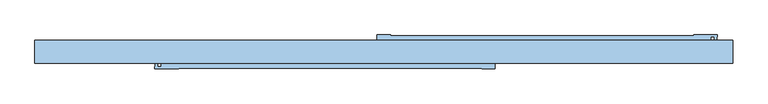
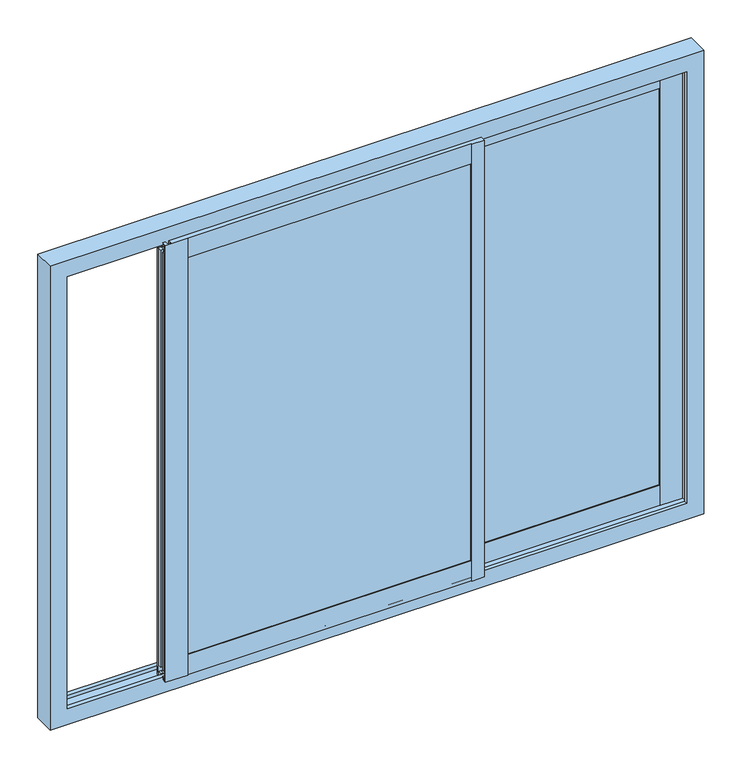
"""IFC4 building model written with IfcOpenShell, lengths in millimetres: window geometry, Domal_Slide TB65_Win_1 Vent Opening + Fix_Family : Domal_Slide TB65_Win_1 Vent Opening + Fix_Family."""

from ifc_helpers import new_model, si_unit, frame, origin, place, context, project, spatial, polyline, outline, extrude, faceted_brep, source, transform, mapped, element, save


def window_3ff02e9a(model_context):
    return source(origin(), model_context, "Body", "SolidModel", [
        extrude(outline(polyline([(900.5, -0.0043941), (900.5, -32.0), (7.0, -32.0), (7.0, -0.0043941), (900.5, -0.0043941)])), frame((0.0, 0.0, 1295.4991347), z_axis=(0.0, 0.0, 1.0), x_axis=(1.0, 0.0, 0.0)), (0.0, 0.0, 1.0), 1309.0017307),
        faceted_brep([(19.0, -36.1043941, 2656.5), (19.0, -36.1043941, 2592.5008653), (888.5, -36.1043941, 2592.5008653), (888.5, -36.1043941, 2656.5), (-19.0, -45.9043008, 2656.5), (-9.3539327, -45.9043008, 2656.5), (-9.3539327, -44.5054114, 2656.5), (4.4047828, -44.5054114, 2656.5), (4.4047828, -42.7001976, 2656.5), (-1.6595506, -42.7001976, 2656.5), (-1.6595506, -38.6043008, 2656.5), (19.0, -38.6043008, 2656.5), (888.5, -37.9956605, 2656.5), (956.5, -37.9956605, 2656.5), (956.5, -32.5956605, 2656.5), (955.2999999, -32.5956605, 2656.5), (955.2999999, -21.9956599, 2656.5), (947.8000001, -21.9956599, 2656.5), (947.8000001, -32.5956605, 2656.5), (937.6402049, -32.5956605, 2656.5), (937.6402049, -22.0043978, 2656.5), (-19.0, -22.0043978, 2656.5), (19.0, 5.9956992, 2656.5), (-19.0, 5.9956992, 2656.5), (-19.0, -10.0044069, 2656.5), (937.6402049, -10.0044069, 2656.5), (937.6402049, 0.6043395, 2656.5), (947.8000001, 0.6043395, 2656.5), (947.8000001, -9.9956691, 2656.5), (955.2999999, -9.9956691, 2656.5), (955.2999999, 0.6043395, 2656.5), (956.5, 0.6043395, 2656.5), (956.5, 6.0043395, 2656.5), (888.5, 6.0043395, 2656.5), (888.5, 4.0945955, 2656.5), (19.0, 4.0945955, 2656.5), (-19.0, -22.0043978, 2646.0001881), (937.6402049, -22.0043978, 2646.0001881), (-19.0, -34.5043941, 2646.0001881), (937.6402049, -32.5956605, 2646.0001881), (947.8000001, -32.5956605, 2646.0001881), (947.8000001, -21.9956599, 2646.0001881), (955.2999999, -21.9956599, 2646.0001881), (955.2999999, -32.5956605, 2646.0001881), (956.5, -32.5956605, 2646.0001881), (956.5, -34.5043941, 2646.0001881), (-19.0, -34.5043941, 2625.3222448), (956.5, -34.5043941, 2625.3222448), (-19.0, 2.4974708, 2625.3222448), (956.5, -32.5956605, 2625.3222448), (955.2999999, -32.5956605, 2625.3222448), (955.2999999, -21.9956599, 2625.3222448), (947.8000001, -21.9956599, 2625.3222448), (947.8000001, -32.5956605, 2625.3222448), (937.6402049, -32.5956605, 2625.3222448), (937.6402049, 0.6043395, 2625.3222448), (947.8000001, 0.6043395, 2625.3222448), (947.8000001, -9.9956691, 2625.3222448), (955.2999999, -9.9956691, 2625.3222448), (955.2999999, 0.6043395, 2625.3222448), (956.5, 0.6043395, 2625.3222448), (956.5, 2.4974708, 2625.3222448), (-19.0, 2.4974708, 2646.0001881), (956.5, 2.4974708, 2646.0001881), (-19.0, -10.0044069, 2646.0001881), (956.5, 0.6043395, 2646.0001881), (955.2999999, 0.6043395, 2646.0001881), (955.2999999, -9.9956691, 2646.0001881), (947.8000001, -9.9956691, 2646.0001881), (947.8000001, 0.6043395, 2646.0001881), (937.6402049, 0.6043395, 2646.0001881), (937.6402049, -10.0044069, 2646.0001881), (19.0, 4.0945955, 2592.5000861), (888.5, 4.0945955, 2592.5000861), (19.0, -0.0043941, 2592.5000861), (888.5, -0.0043941, 2592.5000861), (7.0, -0.0043941, 2604.5008653), (7.0, -0.0043941, 1295.4991347), (900.5, -0.0043941, 1295.4991347), (900.5, -0.0043941, 2604.5008653), (19.0, -0.0043941, 1307.4991347), (888.5, -0.0043941, 1307.4991347), (7.0, -32.0, 2604.5008653), (900.5, -32.0, 2604.5008653), (7.0, -32.0, 1295.4991347), (900.5, -32.0, 1295.4991347), (19.0, -32.0, 2592.5008653), (19.0, -32.0, 1307.4999139), (888.5, -32.0, 1307.4999139), (888.5, -32.0, 2592.5008653), (19.0, 4.1043941, 1243.5), (19.0, 4.1043941, 1307.4991347), (888.5, 4.1043941, 1307.4991347), (888.5, 4.1043941, 1243.5), (937.6402049, -9.9956022, 1243.5), (-19.0, -9.9956022, 1243.5), (-19.0, 5.9956992, 1243.5), (19.0, 5.9956992, 1243.5), (888.5, 6.0043395, 1243.5), (956.5, 6.0043395, 1243.5), (956.5, 0.6043395, 1243.5), (955.2999999, 0.6043395, 1243.5), (955.2999999, -9.9956691, 1243.5), (947.8000001, -9.9956691, 1243.5), (947.8000001, 0.6043395, 1243.5), (937.6402049, 0.6043395, 1243.5), (-19.0, -21.9955931, 1243.5), (937.6402049, -21.9955931, 1243.5), (937.6402049, -32.5956605, 1243.5), (947.8000001, -32.5956605, 1243.5), (947.8000001, -21.9956599, 1243.5), (955.2999999, -21.9956599, 1243.5), (955.2999999, -32.5956605, 1243.5), (956.5, -32.5956605, 1243.5), (956.5, -37.9956605, 1243.5), (888.5, -37.9956605, 1243.5), (888.5, -36.0945955, 1243.5), (19.0, -36.0945955, 1243.5), (19.0, -38.6043008, 1243.5), (-1.6595506, -38.6043008, 1243.5), (-1.6595506, -42.7001976, 1243.5), (4.4047828, -42.7001976, 1243.5), (4.4047828, -44.5054114, 1243.5), (-9.3539327, -44.5054114, 1243.5), (-9.3539327, -45.9043008, 1243.5), (-19.0, -45.9043008, 1243.5), (937.6402049, -9.9956022, 1253.9998119), (-19.0, -9.9956022, 1253.9998119), (937.6402049, 0.6043395, 1253.9998119), (947.8000001, 0.6043395, 1253.9998119), (947.8000001, -9.9956691, 1253.9998119), (955.2999999, -9.9956691, 1253.9998119), (955.2999999, 0.6043395, 1253.9998119), (956.5, 0.6043395, 1253.9998119), (956.5, 2.5043941, 1253.9998119), (-19.0, 2.5043941, 1253.9998119), (956.5, 2.5043941, 1274.6777552), (-19.0, 2.5043941, 1274.6777552), (956.5, 0.6043395, 1274.6777552), (955.2999999, 0.6043395, 1274.6777552), (955.2999999, -9.9956691, 1274.6777552), (947.8000001, -9.9956691, 1274.6777552), (947.8000001, 0.6043395, 1274.6777552), (937.6402049, 0.6043395, 1274.6777552), (937.6402049, -32.5956605, 1274.6777552), (947.8000001, -32.5956605, 1274.6777552), (947.8000001, -21.9956599, 1274.6777552), (955.2999999, -21.9956599, 1274.6777552), (955.2999999, -32.5956605, 1274.6777552), (956.5, -32.5956605, 1274.6777552), (956.5, -34.4974708, 1274.6777552), (-19.0, -34.4974708, 1274.6777552), (956.5, -34.4974708, 1253.9998119), (-19.0, -34.4974708, 1253.9998119), (-19.0, -21.9955931, 1253.9998119), (956.5, -32.5956605, 1253.9998119), (955.2999999, -32.5956605, 1253.9998119), (955.2999999, -21.9956599, 1253.9998119), (947.8000001, -21.9956599, 1253.9998119), (947.8000001, -32.5956605, 1253.9998119), (937.6402049, -32.5956605, 1253.9998119), (937.6402049, -21.9955931, 1253.9998119), (19.0, -36.0945955, 1307.4999139), (888.5, -36.0945955, 1307.4999139)], [[[0, 1, 2, 3]], [[4, 5, 6, 7, 8, 9, 10, 11, 0, 3, 12, 13, 14, 15, 16, 17, 18, 19, 20, 21]], [[22, 23, 24, 25, 26, 27, 28, 29, 30, 31, 32, 33, 34, 35]], [[36, 21, 20, 37]], [[38, 36, 37, 39, 40, 41, 42, 43, 44, 45]], [[46, 38, 45, 47]], [[48, 46, 47, 49, 50, 51, 52, 53, 54, 55, 56, 57, 58, 59, 60, 61]], [[62, 48, 61, 63]], [[64, 62, 63, 65, 66, 67, 68, 69, 70, 71]], [[24, 64, 71, 25]], [[72, 35, 34, 73]], [[74, 72, 73, 75]], [[76, 77, 78, 79], [80, 74, 75, 81]], [[82, 76, 79, 83]], [[84, 82, 83, 85], [86, 87, 88, 89]], [[1, 86, 89, 2]], [[90, 91, 92, 93]], [[94, 95, 96, 97, 90, 93, 98, 99, 100, 101, 102, 103, 104, 105]], [[106, 107, 108, 109, 110, 111, 112, 113, 114, 115, 116, 117, 118, 119, 120, 121, 122, 123, 124, 125]], [[94, 126, 127, 95]], [[127, 126, 128, 129, 130, 131, 132, 133, 134, 135]], [[135, 134, 136, 137]], [[137, 136, 138, 139, 140, 141, 142, 143, 144, 145, 146, 147, 148, 149, 150, 151]], [[151, 150, 152, 153]], [[154, 153, 152, 155, 156, 157, 158, 159, 160, 161]], [[154, 161, 107, 106]], [[162, 117, 116, 163]], [[87, 162, 163, 88]], [[77, 84, 85, 78]], [[91, 80, 81, 92]], [[97, 96, 23, 22]], [[97, 22, 35, 72, 74, 80, 91, 90]], [[76, 82, 84, 77]], [[11, 118, 117, 162, 87, 86, 1, 0]], [[119, 118, 11, 10]], [[120, 119, 10, 9]], [[121, 120, 9, 8]], [[122, 121, 8, 7]], [[123, 122, 7, 6]], [[124, 123, 6, 5]], [[125, 124, 5, 4]], [[23, 96, 95, 127, 135, 137, 151, 153, 154, 106, 125, 4, 21, 36, 38, 46, 48, 62, 64, 24]], [[115, 114, 13, 12]], [[115, 12, 3, 2, 89, 88, 163, 116]], [[83, 79, 78, 85]], [[33, 98, 93, 92, 81, 75, 73, 34]], [[99, 98, 33, 32]], [[100, 99, 32, 31, 65, 63, 61, 60, 138, 136, 134, 133]], [[31, 30, 66, 65]], [[101, 100, 133, 132]], [[60, 59, 139, 138]], [[30, 29, 67, 66]], [[102, 101, 132, 131]], [[59, 58, 140, 139]], [[29, 28, 68, 67]], [[103, 102, 131, 130]], [[58, 57, 141, 140]], [[28, 27, 69, 68]], [[104, 103, 130, 129]], [[57, 56, 142, 141]], [[27, 26, 70, 69]], [[105, 104, 129, 128]], [[56, 55, 143, 142]], [[20, 19, 39, 37]], [[26, 25, 71, 70]], [[94, 105, 128, 126]], [[108, 107, 161, 160]], [[55, 54, 144, 143]], [[19, 18, 40, 39]], [[109, 108, 160, 159]], [[54, 53, 145, 144]], [[18, 17, 41, 40]], [[110, 109, 159, 158]], [[53, 52, 146, 145]], [[17, 16, 42, 41]], [[111, 110, 158, 157]], [[52, 51, 147, 146]], [[16, 15, 43, 42]], [[112, 111, 157, 156]], [[51, 50, 148, 147]], [[15, 14, 44, 43]], [[113, 112, 156, 155]], [[50, 49, 149, 148]], [[114, 113, 155, 152, 150, 149, 49, 47, 45, 44, 14, 13]]]),
        extrude(outline(polyline([(293.0000004, -53.0043941), (293.0000004, -85.0), (-600.4999996, -85.0), (-600.4999996, -53.0043941), (293.0000004, -53.0043941)])), frame((0.0, 0.0, 1295.4991347), z_axis=(0.0, 0.0, 1.0), x_axis=(1.0, 0.0, 0.0)), (0.0, 0.0, 1.0), 1309.0017307),
        faceted_brep([(-588.4999996, -89.1043941, 2656.5), (-588.4999996, -89.1043941, 2592.5008653), (281.0000004, -89.1043941, 2592.5008653), (281.0000004, -89.1043941, 2656.5), (-656.4999996, -47.0043395, 2656.5), (-656.4999996, -52.4043395, 2656.5), (-655.2999995, -52.4043395, 2656.5), (-655.2999995, -63.0043401, 2656.5), (-647.7999997, -63.0043401, 2656.5), (-647.7999997, -52.4043395, 2656.5), (-637.6402045, -52.4043395, 2656.5), (-637.6402045, -63.0044069, 2656.5), (319.0000004, -63.0044069, 2656.5), (319.0000004, -39.0956605, 2656.5), (309.3539331, -39.0956605, 2656.5), (309.3539331, -40.4945499, 2656.5), (295.5952177, -40.4945499, 2656.5), (295.5952177, -42.2997638, 2656.5), (301.659551, -42.2997638, 2656.5), (301.659551, -46.3956605, 2656.5), (281.0000004, -46.3956605, 2656.5), (281.0000004, -48.9054045, 2656.5), (-588.4999996, -48.9054045, 2656.5), (-588.4999996, -47.0043395, 2656.5), (-637.6402045, -85.6043395, 2656.5), (-647.7999997, -85.6043395, 2656.5), (-647.7999997, -75.0043309, 2656.5), (-655.2999995, -75.0043309, 2656.5), (-655.2999995, -85.6043395, 2656.5), (-656.4999996, -85.6043395, 2656.5), (-656.4999996, -91.0043395, 2656.5), (-588.4999996, -91.0043395, 2656.5), (281.0000004, -90.9956605, 2656.5), (319.0000004, -90.9956605, 2656.5), (319.0000004, -75.0043978, 2656.5), (-637.6402045, -75.0043978, 2656.5), (-637.6402045, -75.0043978, 2646.0001881), (319.0000004, -75.0043978, 2646.0001881), (-656.4999996, -87.5043941, 2646.0001881), (-656.4999996, -85.6043395, 2646.0001881), (-655.2999995, -85.6043395, 2646.0001881), (-655.2999995, -75.0043309, 2646.0001881), (-647.7999997, -75.0043309, 2646.0001881), (-647.7999997, -85.6043395, 2646.0001881), (-637.6402045, -85.6043395, 2646.0001881), (319.0000004, -87.5043941, 2646.0001881), (-656.4999996, -87.5043941, 2625.3222448), (319.0000004, -87.5043941, 2625.3222448), (-656.4999996, -85.6043395, 2625.3222448), (319.0000004, -50.5025292, 2625.3222448), (-656.4999996, -50.5025292, 2625.3222448), (-656.4999996, -52.4043395, 2625.3222448), (-655.2999995, -52.4043395, 2625.3222448), (-655.2999995, -63.0043401, 2625.3222448), (-647.7999997, -63.0043401, 2625.3222448), (-647.7999997, -52.4043395, 2625.3222448), (-637.6402045, -52.4043395, 2625.3222448), (-637.6402045, -85.6043395, 2625.3222448), (-647.7999997, -85.6043395, 2625.3222448), (-647.7999997, -75.0043309, 2625.3222448), (-655.2999995, -75.0043309, 2625.3222448), (-655.2999995, -85.6043395, 2625.3222448), (-656.4999996, -50.5025292, 2646.0001881), (319.0000004, -50.5025292, 2646.0001881), (-637.6402045, -63.0044069, 2646.0001881), (-637.6402045, -52.4043395, 2646.0001881), (-647.7999997, -52.4043395, 2646.0001881), (-647.7999997, -63.0043401, 2646.0001881), (-655.2999995, -63.0043401, 2646.0001881), (-655.2999995, -52.4043395, 2646.0001881), (-656.4999996, -52.4043395, 2646.0001881), (319.0000004, -63.0044069, 2646.0001881), (-588.4999996, -48.9054045, 2592.5000861), (281.0000004, -48.9054045, 2592.5000861), (-588.4999996, -53.0043941, 2592.5000861), (281.0000004, -53.0043941, 2592.5000861), (293.0000004, -53.0043941, 2604.5008653), (-600.4999996, -53.0043941, 2604.5008653), (-600.4999996, -53.0043941, 1295.4991347), (293.0000004, -53.0043941, 1295.4991347), (281.0000004, -53.0043941, 1307.4991347), (-588.4999996, -53.0043941, 1307.4991347), (-600.4999996, -85.0, 2604.5008653), (293.0000004, -85.0, 2604.5008653), (293.0000004, -85.0, 1295.4991347), (-600.4999996, -85.0, 1295.4991347), (281.0000004, -85.0, 2592.5008653), (-588.4999996, -85.0, 2592.5008653), (-588.4999996, -85.0, 1307.4999139), (281.0000004, -85.0, 1307.4999139), (-656.4999996, -47.0043395, 1243.5), (-588.4999996, -47.0043395, 1243.5), (-588.4999996, -48.8956059, 1243.5), (281.0000004, -48.8956059, 1243.5), (281.0000004, -46.3956605, 1243.5), (301.659551, -46.3956605, 1243.5), (301.659551, -42.2997638, 1243.5), (295.5952177, -42.2997638, 1243.5), (295.5952177, -40.4945499, 1243.5), (309.3539331, -40.4945499, 1243.5), (309.3539331, -39.0956605, 1243.5), (319.0000004, -39.0956605, 1243.5), (319.0000004, -62.9956022, 1243.5), (-637.6402045, -62.9956022, 1243.5), (-637.6402045, -52.4043395, 1243.5), (-647.7999997, -52.4043395, 1243.5), (-647.7999997, -63.0043401, 1243.5), (-655.2999995, -63.0043401, 1243.5), (-655.2999995, -52.4043395, 1243.5), (-656.4999996, -52.4043395, 1243.5), (-588.4999996, -91.0043395, 1243.5), (-656.4999996, -91.0043395, 1243.5), (-656.4999996, -85.6043395, 1243.5), (-655.2999995, -85.6043395, 1243.5), (-655.2999995, -75.0043309, 1243.5), (-647.7999997, -75.0043309, 1243.5), (-647.7999997, -85.6043395, 1243.5), (-637.6402045, -85.6043395, 1243.5), (-637.6402045, -74.9955931, 1243.5), (319.0000004, -74.9955931, 1243.5), (319.0000004, -90.9956605, 1243.5), (281.0000004, -90.9956605, 1243.5), (281.0000004, -89.0945955, 1243.5), (-588.4999996, -89.0945955, 1243.5), (-588.4999996, -48.8956059, 1307.4991347), (-588.4999996, -89.0945955, 1307.4999139), (-656.4999996, -85.6043395, 1274.6777552), (-656.4999996, -87.4974708, 1274.6777552), (-656.4999996, -87.4974708, 1253.9998119), (-656.4999996, -85.6043395, 1253.9998119), (-655.2999995, -85.6043395, 1253.9998119), (-655.2999995, -85.6043395, 1274.6777552), (-655.2999995, -75.0043309, 1253.9998119), (-655.2999995, -75.0043309, 1274.6777552), (-647.7999997, -75.0043309, 1253.9998119), (-647.7999997, -75.0043309, 1274.6777552), (-647.7999997, -85.6043395, 1253.9998119), (-647.7999997, -85.6043395, 1274.6777552), (-637.6402045, -85.6043395, 1253.9998119), (-637.6402045, -85.6043395, 1274.6777552), (-637.6402045, -62.9956022, 1253.9998119), (-637.6402045, -52.4043395, 1253.9998119), (-637.6402045, -74.9955931, 1253.9998119), (-637.6402045, -52.4043395, 1274.6777552), (-647.7999997, -52.4043395, 1253.9998119), (-647.7999997, -52.4043395, 1274.6777552), (-647.7999997, -63.0043401, 1253.9998119), (-647.7999997, -63.0043401, 1274.6777552), (-655.2999995, -63.0043401, 1253.9998119), (-655.2999995, -63.0043401, 1274.6777552), (-655.2999995, -52.4043395, 1253.9998119), (-655.2999995, -52.4043395, 1274.6777552), (-656.4999996, -52.4043395, 1253.9998119), (-656.4999996, -52.4043395, 1274.6777552), (-656.4999996, -50.4956059, 1253.9998119), (-656.4999996, -50.4956059, 1274.6777552), (281.0000004, -89.0945955, 1307.4999139), (281.0000004, -48.8956059, 1307.4991347), (319.0000004, -74.9955931, 1253.9998119), (319.0000004, -87.4974708, 1253.9998119), (319.0000004, -87.4974708, 1274.6777552), (319.0000004, -50.4956059, 1274.6777552), (319.0000004, -50.4956059, 1253.9998119), (319.0000004, -62.9956022, 1253.9998119)], [[[0, 1, 2, 3]], [[4, 5, 6, 7, 8, 9, 10, 11, 12, 13, 14, 15, 16, 17, 18, 19, 20, 21, 22, 23]], [[24, 25, 26, 27, 28, 29, 30, 31, 0, 3, 32, 33, 34, 35]], [[36, 35, 34, 37]], [[38, 39, 40, 41, 42, 43, 44, 36, 37, 45]], [[46, 38, 45, 47]], [[48, 46, 47, 49, 50, 51, 52, 53, 54, 55, 56, 57, 58, 59, 60, 61]], [[62, 50, 49, 63]], [[64, 65, 66, 67, 68, 69, 70, 62, 63, 71]], [[11, 64, 71, 12]], [[72, 22, 21, 73]], [[74, 72, 73, 75]], [[76, 77, 78, 79], [74, 75, 80, 81]], [[82, 77, 76, 83]], [[82, 83, 84, 85], [86, 87, 88, 89]], [[1, 87, 86, 2]], [[90, 91, 92, 93, 94, 95, 96, 97, 98, 99, 100, 101, 102, 103, 104, 105, 106, 107, 108, 109]], [[110, 111, 112, 113, 114, 115, 116, 117, 118, 119, 120, 121, 122, 123]], [[91, 90, 4, 23]], [[91, 23, 22, 72, 74, 81, 124, 92]], [[77, 82, 85, 78]], [[31, 110, 123, 125, 88, 87, 1, 0]], [[111, 110, 31, 30]], [[112, 111, 30, 29, 39, 38, 46, 48, 126, 127, 128, 129]], [[29, 28, 40, 39]], [[113, 112, 129, 130]], [[48, 61, 131, 126]], [[28, 27, 41, 40]], [[114, 113, 130, 132]], [[61, 60, 133, 131]], [[27, 26, 42, 41]], [[115, 114, 132, 134]], [[60, 59, 135, 133]], [[26, 25, 43, 42]], [[116, 115, 134, 136]], [[59, 58, 137, 135]], [[25, 24, 44, 43]], [[117, 116, 136, 138]], [[58, 57, 139, 137]], [[11, 10, 65, 64]], [[24, 35, 36, 44]], [[104, 103, 140, 141]], [[118, 117, 138, 142]], [[57, 56, 143, 139]], [[10, 9, 66, 65]], [[105, 104, 141, 144]], [[56, 55, 145, 143]], [[9, 8, 67, 66]], [[106, 105, 144, 146]], [[55, 54, 147, 145]], [[8, 7, 68, 67]], [[107, 106, 146, 148]], [[54, 53, 149, 147]], [[7, 6, 69, 68]], [[108, 107, 148, 150]], [[53, 52, 151, 149]], [[6, 5, 70, 69]], [[109, 108, 150, 152]], [[52, 51, 153, 151]], [[90, 109, 152, 154, 155, 153, 51, 50, 62, 70, 5, 4]], [[121, 120, 33, 32]], [[121, 32, 3, 2, 86, 89, 156, 122]], [[83, 76, 79, 84]], [[20, 94, 93, 157, 80, 75, 73, 21]], [[95, 94, 20, 19]], [[96, 95, 19, 18]], [[97, 96, 18, 17]], [[98, 97, 17, 16]], [[99, 98, 16, 15]], [[100, 99, 15, 14]], [[101, 100, 14, 13]], [[33, 120, 119, 158, 159, 160, 161, 162, 163, 102, 101, 13, 12, 71, 63, 49, 47, 45, 37, 34]], [[93, 92, 124, 157]], [[102, 163, 140, 103]], [[140, 163, 162, 154, 152, 150, 148, 146, 144, 141]], [[154, 162, 161, 155]], [[155, 161, 160, 127, 126, 131, 133, 135, 137, 139, 143, 145, 147, 149, 151, 153]], [[127, 160, 159, 128]], [[142, 138, 136, 134, 132, 130, 129, 128, 159, 158]], [[142, 158, 119, 118]], [[123, 122, 156, 125]], [[89, 88, 125, 156]], [[78, 85, 84, 79]], [[81, 80, 157, 124]]]),
        faceted_brep([(1000.0, -10.0, 2700.0), (1000.0, -74.9999601, 2700.0), (1000.0, -74.9999601, 1200.0), (1000.0, -10.0, 1200.0), (948.5, -21.9999908, 2648.5), (948.5, -10.0, 2648.5), (948.5, -10.0, 1251.5), (948.5, -21.9999908, 1251.5), (960.5921341, -62.9999693, 2660.5921341), (960.5921341, -21.9999908, 2660.5921341), (960.5921341, -21.9999908, 1239.4078659), (960.5921341, -62.9999693, 1239.4078659), (948.5, -74.9999601, 2648.5), (948.5, -62.9999693, 2648.5), (948.5, -62.9999693, 1251.5), (948.5, -74.9999601, 1251.5), (-1000.0, -74.9999601, 1200.0), (-1000.0, -10.0, 1200.0), (-948.5, -10.0, 1251.5), (-948.5, -21.9999908, 1251.5), (-960.5921341, -21.9999908, 1239.4078659), (-960.5921341, -62.9999693, 1239.4078659), (-948.5, -62.9999693, 1251.5), (-948.5, -74.9999601, 1251.5), (-1000.0, -74.9999601, 2700.0), (-1000.0, -10.0, 2700.0), (-948.5, -10.0, 2648.5), (-948.5, -21.9999908, 2648.5), (-960.5921341, -21.9999908, 2660.5921341), (-960.5921341, -62.9999693, 2660.5921341), (-948.5, -62.9999693, 2648.5), (-948.5, -74.9999601, 2648.5)], [[[0, 1, 2, 3]], [[4, 5, 6, 7]], [[8, 9, 10, 11]], [[12, 13, 14, 15]], [[3, 2, 16, 17]], [[7, 6, 18, 19]], [[11, 10, 20, 21]], [[15, 14, 22, 23]], [[17, 16, 24, 25]], [[19, 18, 26, 27]], [[21, 20, 28, 29]], [[23, 22, 30, 31]], [[25, 24, 1, 0]], [[3, 17, 25, 0], [5, 26, 18, 6]], [[27, 26, 5, 4]], [[9, 28, 20, 10], [7, 19, 27, 4]], [[29, 28, 9, 8]], [[11, 21, 29, 8], [13, 30, 22, 14]], [[31, 30, 13, 12]], [[1, 24, 16, 2], [15, 23, 31, 12]]]),
    ])


if __name__ == "__main__":
    model = new_model("IFC4")
    model_context = context("Model", 3, world=origin())
    ifc_project = project(units=[si_unit("LENGTHUNIT", "METRE", prefix="MILLI")], contexts=[model_context])
    site = spatial("IfcSite", under=ifc_project)
    building = spatial("IfcBuilding", under=site)
    placement = place(None, origin())
    window_shape = window_3ff02e9a(model_context)
    element("IfcWindow", 1, ObjectType="Domal_Slide TB65_Win_1 Vent Opening + Fix_Family : Domal_Slide TB65_Win_1 Vent Opening + Fix_Family", at=placement, inside=building, context=model_context, shape_type="MappedRepresentation", body=[
        mapped(window_shape, transform((0.0, 0.0, 0.0), x_axis=(1.0, 0.0, 0.0), y_axis=(0.0, 1.0, 0.0), z_axis=(0.0, 0.0, 1.0))),
    ])
    save(model, "model.ifc")
